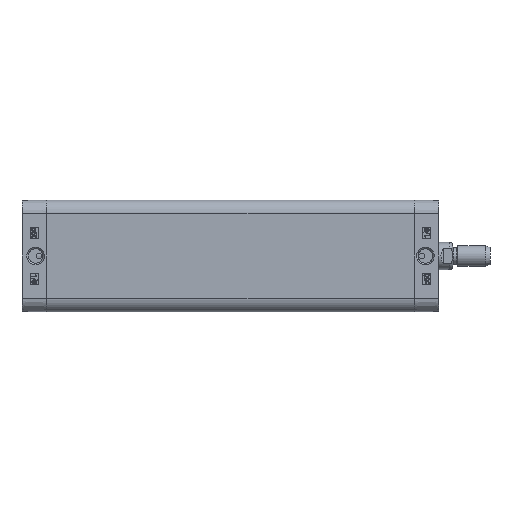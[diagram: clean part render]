
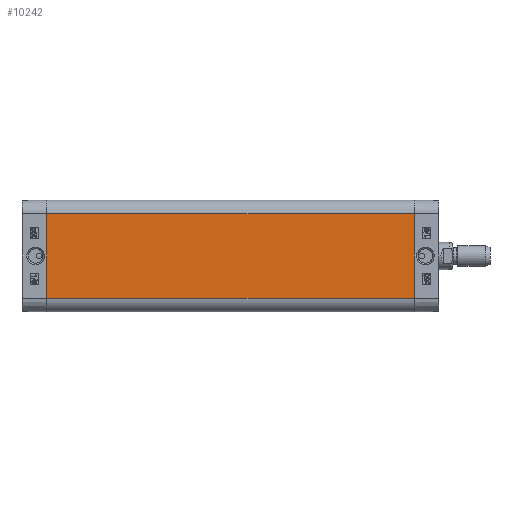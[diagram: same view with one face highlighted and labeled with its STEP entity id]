
A CAD part, left-side view. The second image highlights one B-rep face of the part: STEP entity #10242.
In plain terms, the highlighted planar face has unit normal (-1, 0, 0).
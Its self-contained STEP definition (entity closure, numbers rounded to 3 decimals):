
#5244=CARTESIAN_POINT('',(-32.75,-216.0,24.75));
#5245=VERTEX_POINT('',#5244);
#5252=CARTESIAN_POINT('',(-32.75,-216.0,-24.75));
#5253=VERTEX_POINT('',#5252);
#5254=CARTESIAN_POINT('',(-32.75,-216.0,-24.75));
#5255=DIRECTION('',(0.0,0.0,1.0));
#5256=VECTOR('',#5255,49.5);
#5257=LINE('',#5254,#5256);
#5258=EDGE_CURVE('',#5253,#5245,#5257,.T.);
#10200=CARTESIAN_POINT('',(-32.75,0.0,-24.75));
#10201=VERTEX_POINT('',#10200);
#10202=CARTESIAN_POINT('',(-32.75,0.0,-24.75));
#10203=DIRECTION('',(0.0,-1.0,0.0));
#10204=VECTOR('',#10203,216.0);
#10205=LINE('',#10202,#10204);
#10206=EDGE_CURVE('',#10201,#5253,#10205,.T.);
#10219=CARTESIAN_POINT('',(-32.75,0.0,-24.75));
#10220=DIRECTION('',(-1.0,0.0,0.0));
#10221=DIRECTION('',(0.0,0.0,1.0));
#10222=AXIS2_PLACEMENT_3D('',#10219,#10220,#10221);
#10223=PLANE('',#10222);
#10224=ORIENTED_EDGE('',*,*,#5258,.T.);
#10225=CARTESIAN_POINT('',(-32.75,0.0,24.75));
#10226=VERTEX_POINT('',#10225);
#10227=CARTESIAN_POINT('',(-32.75,0.0,24.75));
#10228=DIRECTION('',(0.0,-1.0,0.0));
#10229=VECTOR('',#10228,216.0);
#10230=LINE('',#10227,#10229);
#10231=EDGE_CURVE('',#10226,#5245,#10230,.T.);
#10232=ORIENTED_EDGE('',*,*,#10231,.F.);
#10233=CARTESIAN_POINT('',(-32.75,0.0,-24.75));
#10234=DIRECTION('',(0.0,0.0,1.0));
#10235=VECTOR('',#10234,49.5);
#10236=LINE('',#10233,#10235);
#10237=EDGE_CURVE('',#10201,#10226,#10236,.T.);
#10238=ORIENTED_EDGE('',*,*,#10237,.F.);
#10239=ORIENTED_EDGE('',*,*,#10206,.T.);
#10240=EDGE_LOOP('',(#10224,#10232,#10238,#10239));
#10241=FACE_OUTER_BOUND('',#10240,.T.);
#10242=ADVANCED_FACE('',(#10241),#10223,.T.);
